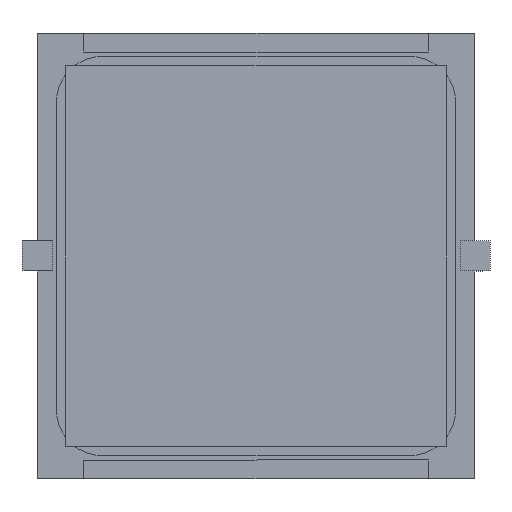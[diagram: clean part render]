
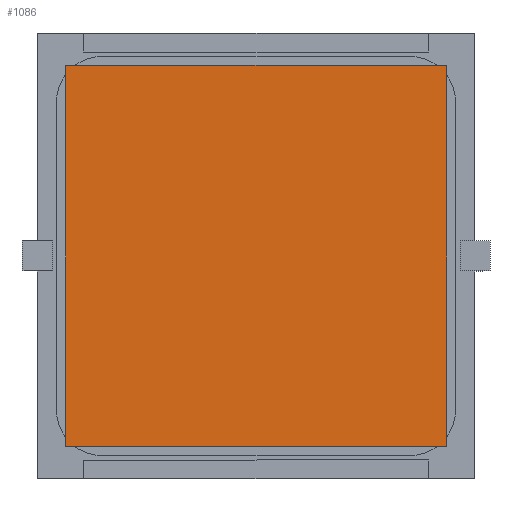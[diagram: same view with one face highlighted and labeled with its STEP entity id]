
A CAD part, front view. The second image highlights one B-rep face of the part: STEP entity #1086.
In plain terms, the highlighted planar face has unit normal (0, -1, 0).
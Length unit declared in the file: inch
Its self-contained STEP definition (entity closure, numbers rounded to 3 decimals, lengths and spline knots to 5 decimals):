
#300 = CARTESIAN_POINT ( 'NONE',  ( -0.5, -0.005, 0.5 ) ) ;
#415 = DIRECTION ( 'NONE',  ( 0., 1., 0. ) ) ;
#1086 = ADVANCED_FACE ( 'NONE', ( #10896 ), #3808, .F. ) ;
#1165 = CARTESIAN_POINT ( 'NONE',  ( -0.5, -0.005, 0.5 ) ) ;
#1449 = DIRECTION ( 'NONE',  ( 0., 0., 1. ) ) ;
#1917 = DIRECTION ( 'NONE',  ( 1., 0., 0. ) ) ;
#2079 = ORIENTED_EDGE ( 'NONE', *, *, #2275, .F. ) ;
#2275 = EDGE_CURVE ( 'NONE', #2984, #3529, #3794, .T. ) ;
#2984 = VERTEX_POINT ( 'NONE', #3517 ) ;
#3133 = LINE ( 'NONE', #6624, #10350 ) ;
#3172 = VECTOR ( 'NONE', #1917, 39.37008 ) ;
#3362 = AXIS2_PLACEMENT_3D ( 'NONE', #300, #415, #7308 ) ;
#3517 = CARTESIAN_POINT ( 'NONE',  ( -0.5, -0.005, 0.5 ) ) ;
#3529 = VERTEX_POINT ( 'NONE', #7219 ) ;
#3691 = LINE ( 'NONE', #4450, #7434 ) ;
#3794 = LINE ( 'NONE', #1165, #3172 ) ;
#3808 = PLANE ( 'NONE',  #3362 ) ;
#4109 = ORIENTED_EDGE ( 'NONE', *, *, #8012, .F. ) ;
#4196 = LINE ( 'NONE', #5696, #6681 ) ;
#4450 = CARTESIAN_POINT ( 'NONE',  ( 0.5, -0.005, -0.5 ) ) ;
#5696 = CARTESIAN_POINT ( 'NONE',  ( -0.5, -0.005, -0.5 ) ) ;
#6227 = EDGE_LOOP ( 'NONE', ( #4109, #9303, #7032, #2079 ) ) ;
#6624 = CARTESIAN_POINT ( 'NONE',  ( -0.5, -0.005, -0.5 ) ) ;
#6681 = VECTOR ( 'NONE', #1449, 39.37008 ) ;
#6686 = EDGE_CURVE ( 'NONE', #8107, #7376, #3133, .T. ) ;
#7032 = ORIENTED_EDGE ( 'NONE', *, *, #9731, .F. ) ;
#7130 = DIRECTION ( 'NONE',  ( 0., 0., -1. ) ) ;
#7219 = CARTESIAN_POINT ( 'NONE',  ( 0.5, -0.005, 0.5 ) ) ;
#7308 = DIRECTION ( 'NONE',  ( 0., 0., 1. ) ) ;
#7376 = VERTEX_POINT ( 'NONE', #10696 ) ;
#7434 = VECTOR ( 'NONE', #7130, 39.37008 ) ;
#7953 = CARTESIAN_POINT ( 'NONE',  ( 0.5, -0.005, -0.5 ) ) ;
#8012 = EDGE_CURVE ( 'NONE', #7376, #2984, #4196, .T. ) ;
#8107 = VERTEX_POINT ( 'NONE', #7953 ) ;
#9303 = ORIENTED_EDGE ( 'NONE', *, *, #6686, .F. ) ;
#9731 = EDGE_CURVE ( 'NONE', #3529, #8107, #3691, .T. ) ;
#10135 = DIRECTION ( 'NONE',  ( -1., 0., 0. ) ) ;
#10350 = VECTOR ( 'NONE', #10135, 39.37008 ) ;
#10696 = CARTESIAN_POINT ( 'NONE',  ( -0.5, -0.005, -0.5 ) ) ;
#10896 = FACE_OUTER_BOUND ( 'NONE', #6227, .T. ) ;
